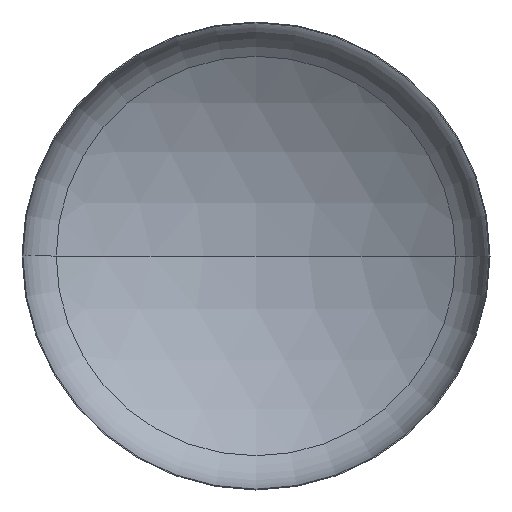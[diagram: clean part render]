
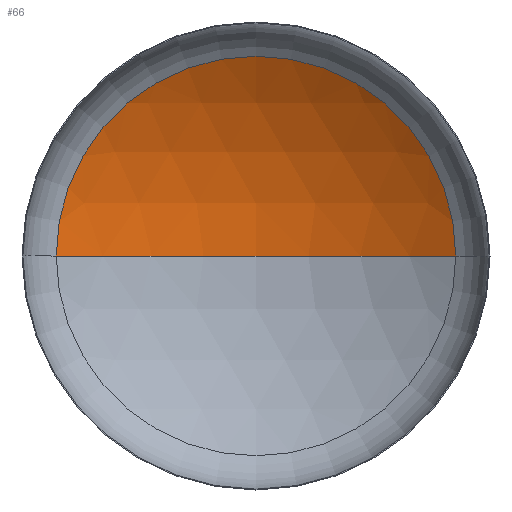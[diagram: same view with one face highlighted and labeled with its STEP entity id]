
A CAD part, front view. The second image highlights one B-rep face of the part: STEP entity #66.
In plain terms, the highlighted spherical face has radius 1360 mm.
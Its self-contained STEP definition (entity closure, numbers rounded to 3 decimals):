
#2 = ORIENTED_EDGE ( 'NONE', *, *, #170, .F. ) ;
#12 = VERTEX_POINT ( 'NONE', #287 ) ;
#13 = DIRECTION ( 'NONE',  ( 1., 0., 0. ) ) ;
#17 = CIRCLE ( 'NONE', #86, 1360. ) ;
#23 = DIRECTION ( 'NONE',  ( 0., -1., 0. ) ) ;
#27 = ORIENTED_EDGE ( 'NONE', *, *, #163, .T. ) ;
#44 = VERTEX_POINT ( 'NONE', #283 ) ;
#66 = ADVANCED_FACE ( 'NONE', ( #387 ), #117, .F. ) ;
#86 = AXIS2_PLACEMENT_3D ( 'NONE', #187, #208, #210 ) ;
#99 = AXIS2_PLACEMENT_3D ( 'NONE', #310, #264, #398 ) ;
#107 = AXIS2_PLACEMENT_3D ( 'NONE', #354, #23, #13 ) ;
#117 = SPHERICAL_SURFACE ( 'NONE', #139, 1360. ) ;
#139 = AXIS2_PLACEMENT_3D ( 'NONE', #249, #248, #245 ) ;
#143 = ORIENTED_EDGE ( 'NONE', *, *, #166, .T. ) ;
#163 = EDGE_CURVE ( 'NONE', #44, #12, #314, .T. ) ;
#166 = EDGE_CURVE ( 'NONE', #397, #44, #253, .T. ) ;
#170 = EDGE_CURVE ( 'NONE', #397, #12, #17, .T. ) ;
#187 = CARTESIAN_POINT ( 'NONE',  ( 0., -910.285, 0. ) ) ;
#208 = DIRECTION ( 'NONE',  ( 0., 0., 1. ) ) ;
#210 = DIRECTION ( 'NONE',  ( 1., 0., 0. ) ) ;
#245 = DIRECTION ( 'NONE',  ( -1., 0., 0. ) ) ;
#248 = DIRECTION ( 'NONE',  ( 0., 0., -1. ) ) ;
#249 = CARTESIAN_POINT ( 'NONE',  ( 0., -910.285, 0. ) ) ;
#253 = CIRCLE ( 'NONE', #99, 1360. ) ;
#264 = DIRECTION ( 'NONE',  ( 0., 0., -1. ) ) ;
#272 = EDGE_LOOP ( 'NONE', ( #2, #143, #27 ) ) ;
#283 = CARTESIAN_POINT ( 'NONE',  ( 725.745, 239.886, 0. ) ) ;
#287 = CARTESIAN_POINT ( 'NONE',  ( -725.745, 239.886, 0. ) ) ;
#310 = CARTESIAN_POINT ( 'NONE',  ( 0., -910.285, 0. ) ) ;
#314 = CIRCLE ( 'NONE', #107, 725.745 ) ;
#340 = CARTESIAN_POINT ( 'NONE',  ( 0., 449.715, 0. ) ) ;
#354 = CARTESIAN_POINT ( 'NONE',  ( 0., 239.886, 0. ) ) ;
#387 = FACE_OUTER_BOUND ( 'NONE', #272, .T. ) ;
#397 = VERTEX_POINT ( 'NONE', #340 ) ;
#398 = DIRECTION ( 'NONE',  ( -1., 0., 0. ) ) ;
